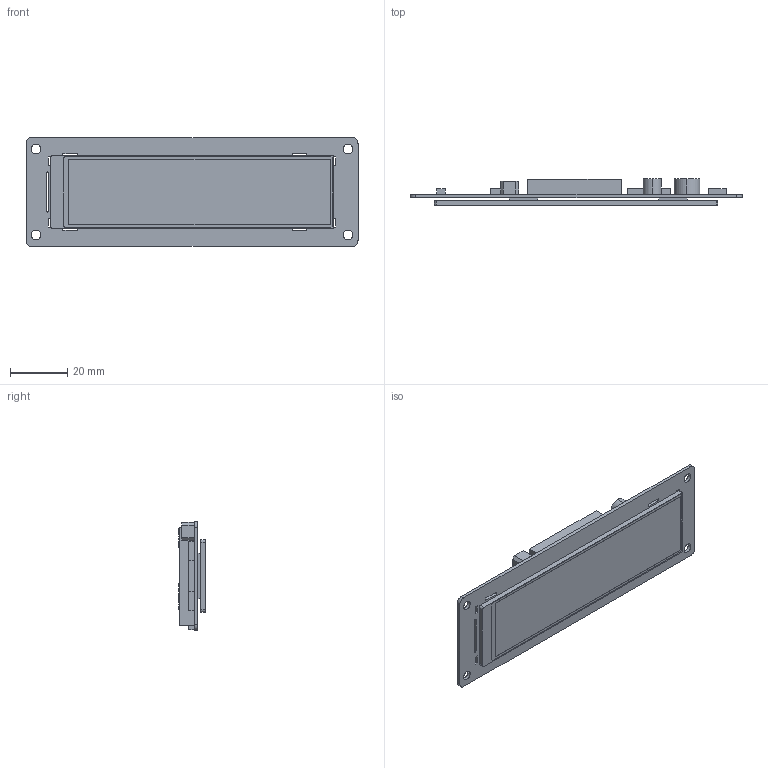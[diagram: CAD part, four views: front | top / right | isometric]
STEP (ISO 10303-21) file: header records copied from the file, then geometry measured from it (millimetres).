
FILE_DESCRIPTION (( 'STEP AP214' ), '1' );
FILE_NAME ('DMG96240C037_03WN 3D.STEP', '2023-11-03T03:38:23', ( '' ), ( 'Microsoft' ), 'SwSTEP 2.0', 'SolidWorks 2017', '' );
FILE_SCHEMA (( 'AUTOMOTIVE_DESIGN' ));
Length unit declared in the file: millimetre
Products named in the file (4): VHB 1mm; LI24960T037BA4004TCZ01; DMG96240C037_03WN-TR; DMG96240C037_03WN  3D
Assembly tree (4 placements, depth 2):
  DMG96240C037_03WN  3D
    DMG96240C037_03WN-TR
    LI24960T037BA4004TCZ01
    VHB 1mm  x2
Bounding box: 116 x 9.33 x 38 mm (x, y, z)
Volume: 16929.5 mm3; surface area: 16833 mm2
Topology: 4 solids, 4 shells, 228 faces, 652 edges, 442 vertices
Faces by surface type: cylinder 124, plane 104
Entity records: 10068 total; most frequent: DIRECTION 1346, CARTESIAN_POINT 1303, ORIENTED_EDGE 1280, EDGE_CURVE 640, AXIS2_PLACEMENT_3D 477, VERTEX_POINT 434, LINE 392, VECTOR 392
